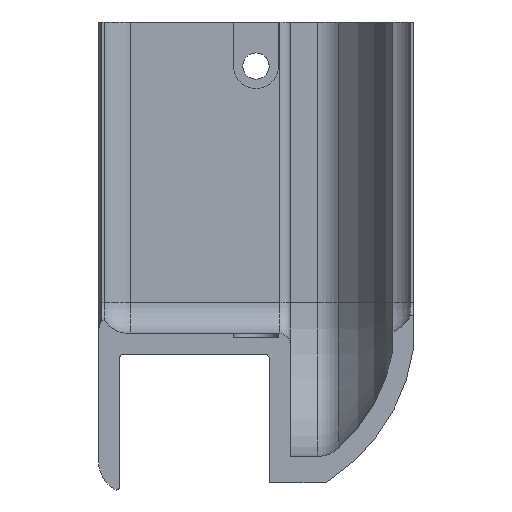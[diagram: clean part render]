
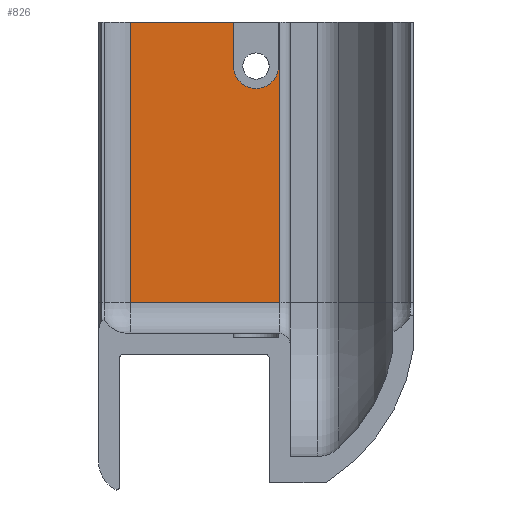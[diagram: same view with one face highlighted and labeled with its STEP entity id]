
A CAD part, front view. The second image highlights one B-rep face of the part: STEP entity #826.
In plain terms, the highlighted planar face has unit normal (0, -1, 0).
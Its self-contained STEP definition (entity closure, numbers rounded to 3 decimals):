
#35 = VERTEX_POINT ( 'NONE', #2082 ) ;
#63 = ORIENTED_EDGE ( 'NONE', *, *, #2532, .F. ) ;
#79 = LINE ( 'NONE', #878, #1157 ) ;
#84 = EDGE_CURVE ( 'NONE', #779, #2135, #640, .T. ) ;
#95 = ORIENTED_EDGE ( 'NONE', *, *, #1808, .T. ) ;
#104 = CARTESIAN_POINT ( 'NONE',  ( 4.65, 10.55, -4.5 ) ) ;
#114 = VECTOR ( 'NONE', #593, 1000. ) ;
#133 = CARTESIAN_POINT ( 'NONE',  ( 4.75, 10.55, -0.3 ) ) ;
#135 = EDGE_CURVE ( 'NONE', #2028, #1772, #1683, .T. ) ;
#162 = CARTESIAN_POINT ( 'NONE',  ( 4.65, 10.55, -0.3 ) ) ;
#189 = DIRECTION ( 'NONE',  ( 1., 0., 0. ) ) ;
#226 = PLANE ( 'NONE',  #2146 ) ;
#241 = VECTOR ( 'NONE', #521, 1000. ) ;
#249 = VERTEX_POINT ( 'NONE', #1735 ) ;
#323 = DIRECTION ( 'NONE',  ( 0., 0., -1. ) ) ;
#338 = ORIENTED_EDGE ( 'NONE', *, *, #135, .T. ) ;
#405 = DIRECTION ( 'NONE',  ( 1., 0., 0. ) ) ;
#504 = VECTOR ( 'NONE', #1433, 1000. ) ;
#521 = DIRECTION ( 'NONE',  ( 0., 0., -1. ) ) ;
#523 = VERTEX_POINT ( 'NONE', #133 ) ;
#561 = EDGE_CURVE ( 'NONE', #523, #2329, #2014, .T. ) ;
#593 = DIRECTION ( 'NONE',  ( -1., 0., 0. ) ) ;
#640 = LINE ( 'NONE', #797, #504 ) ;
#683 = ORIENTED_EDGE ( 'NONE', *, *, #2422, .T. ) ;
#719 = CARTESIAN_POINT ( 'NONE',  ( 2.5, 10.55, -4.5 ) ) ;
#722 = ORIENTED_EDGE ( 'NONE', *, *, #2726, .T. ) ;
#779 = VERTEX_POINT ( 'NONE', #1486 ) ;
#782 = AXIS2_PLACEMENT_3D ( 'NONE', #2337, #847, #189 ) ;
#797 = CARTESIAN_POINT ( 'NONE',  ( 0.35, 10.55, -4.5 ) ) ;
#826 = ADVANCED_FACE ( 'NONE', ( #1408 ), #226, .F. ) ;
#847 = DIRECTION ( 'NONE',  ( 0., 1., 0. ) ) ;
#859 = DIRECTION ( 'NONE',  ( 0., 0., 1. ) ) ;
#878 = CARTESIAN_POINT ( 'NONE',  ( -9.5, 10.55, 0. ) ) ;
#924 = CIRCLE ( 'NONE', #2728, 2.15 ) ;
#931 = LINE ( 'NONE', #1797, #1063 ) ;
#964 = VERTEX_POINT ( 'NONE', #2406 ) ;
#1063 = VECTOR ( 'NONE', #323, 1000. ) ;
#1132 = ORIENTED_EDGE ( 'NONE', *, *, #84, .T. ) ;
#1156 = EDGE_LOOP ( 'NONE', ( #1132, #722, #95, #2742, #63, #1977, #683, #338, #2425 ) ) ;
#1157 = VECTOR ( 'NONE', #2442, 1000. ) ;
#1241 = CARTESIAN_POINT ( 'NONE',  ( -9.5, 10.55, -27. ) ) ;
#1247 = LINE ( 'NONE', #104, #241 ) ;
#1408 = FACE_OUTER_BOUND ( 'NONE', #1156, .T. ) ;
#1433 = DIRECTION ( 'NONE',  ( 0., 0., 1. ) ) ;
#1442 = CARTESIAN_POINT ( 'NONE',  ( -9.5, 10.55, -0.3 ) ) ;
#1449 = LINE ( 'NONE', #1442, #114 ) ;
#1464 = DIRECTION ( 'NONE',  ( 0., 1., 0. ) ) ;
#1486 = CARTESIAN_POINT ( 'NONE',  ( 0.35, 10.55, -4.5 ) ) ;
#1683 = CIRCLE ( 'NONE', #782, 2.15 ) ;
#1735 = CARTESIAN_POINT ( 'NONE',  ( -9.5, 10.55, -27. ) ) ;
#1772 = VERTEX_POINT ( 'NONE', #1921 ) ;
#1797 = CARTESIAN_POINT ( 'NONE',  ( 4.75, 10.55, 0. ) ) ;
#1808 = EDGE_CURVE ( 'NONE', #35, #249, #79, .T. ) ;
#1852 = DIRECTION ( 'NONE',  ( 0., 1., 0. ) ) ;
#1866 = CARTESIAN_POINT ( 'NONE',  ( 0.35, 10.55, -0.3 ) ) ;
#1874 = VECTOR ( 'NONE', #2059, 1000. ) ;
#1921 = CARTESIAN_POINT ( 'NONE',  ( 2.5, 10.55, -6.65 ) ) ;
#1928 = VECTOR ( 'NONE', #405, 1000. ) ;
#1977 = ORIENTED_EDGE ( 'NONE', *, *, #561, .T. ) ;
#1997 = LINE ( 'NONE', #1241, #1928 ) ;
#2014 = LINE ( 'NONE', #2709, #1874 ) ;
#2028 = VERTEX_POINT ( 'NONE', #2475 ) ;
#2059 = DIRECTION ( 'NONE',  ( -1., 0., 0. ) ) ;
#2082 = CARTESIAN_POINT ( 'NONE',  ( -9.5, 10.55, -0.3 ) ) ;
#2083 = EDGE_CURVE ( 'NONE', #1772, #779, #924, .T. ) ;
#2135 = VERTEX_POINT ( 'NONE', #1866 ) ;
#2146 = AXIS2_PLACEMENT_3D ( 'NONE', #2170, #1464, #859 ) ;
#2170 = CARTESIAN_POINT ( 'NONE',  ( -9.5, 10.55, 0. ) ) ;
#2329 = VERTEX_POINT ( 'NONE', #162 ) ;
#2337 = CARTESIAN_POINT ( 'NONE',  ( 2.5, 10.55, -4.5 ) ) ;
#2406 = CARTESIAN_POINT ( 'NONE',  ( 4.75, 10.55, -27. ) ) ;
#2422 = EDGE_CURVE ( 'NONE', #2329, #2028, #1247, .T. ) ;
#2425 = ORIENTED_EDGE ( 'NONE', *, *, #2083, .T. ) ;
#2442 = DIRECTION ( 'NONE',  ( 0., 0., -1. ) ) ;
#2475 = CARTESIAN_POINT ( 'NONE',  ( 4.65, 10.55, -4.5 ) ) ;
#2491 = DIRECTION ( 'NONE',  ( 1., 0., 0. ) ) ;
#2532 = EDGE_CURVE ( 'NONE', #523, #964, #931, .T. ) ;
#2705 = EDGE_CURVE ( 'NONE', #249, #964, #1997, .T. ) ;
#2709 = CARTESIAN_POINT ( 'NONE',  ( -9.5, 10.55, -0.3 ) ) ;
#2726 = EDGE_CURVE ( 'NONE', #2135, #35, #1449, .T. ) ;
#2728 = AXIS2_PLACEMENT_3D ( 'NONE', #719, #1852, #2491 ) ;
#2742 = ORIENTED_EDGE ( 'NONE', *, *, #2705, .T. ) ;
